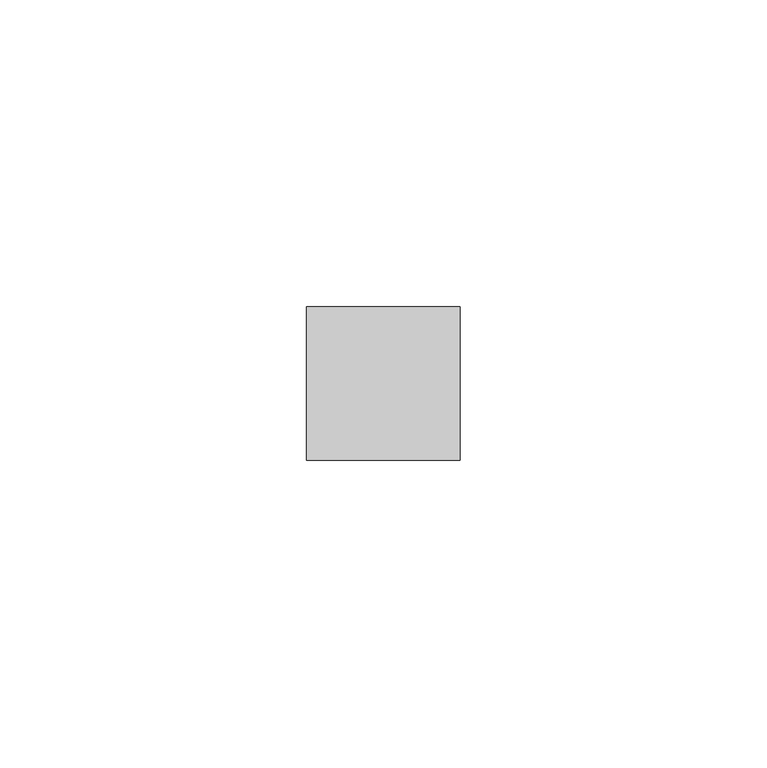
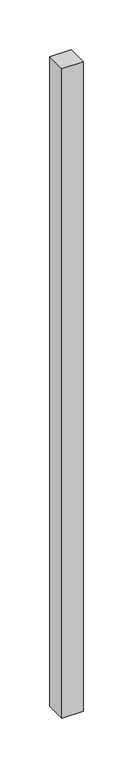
"""IFC4 building model written with IfcOpenShell, lengths in millimetres: member geometry, Obdélníková příčel : VERTI AERO."""

import ifcopenshell
import ifcopenshell.guid

model = None  # the IFC model being written
_history = None  # IfcOwnerHistory: only IFC2X3 demands one
_inside = {}  # id of a spatial element -> (the spatial element, [elements in it])
_under = {}  # id of a project, library or spatial element -> (it, [spatial elements below it])
_declared = {}  # id of a project -> (the project, [libraries it declares])
_typed = {}  # id of a type object -> (the type object, [elements of that type])
_made_of = {}  # id of a material, layer set ... -> (it, [elements and type objects made of it])


def new_model(schema):
    """Start an empty IFC model of exactly this schema.

    Asked for "IFC4X3", IfcOpenShell would pick the latest addendum, in which some entities
    have other attributes; the version numbers below select the first issue.
    IFC2X3 requires an IfcOwnerHistory on every rooted entity: one is made here for all.
    """
    global model, _history
    if schema == "IFC4X3":
        model = ifcopenshell.file(schema_version=(4, 3, 0, 0))
    else:
        model = ifcopenshell.file(schema=schema)
    _inside.clear()
    _under.clear()
    _declared.clear()
    _typed.clear()
    _made_of.clear()
    _history = None
    if model.schema == "IFC2X3":
        org = make("IfcOrganization", Name="unknown")
        user = make(
            "IfcPersonAndOrganization",
            ThePerson=make("IfcPerson", FamilyName="unknown"),
            TheOrganization=org,
        )
        app = make(
            "IfcApplication",
            ApplicationDeveloper=org,
            Version="unknown",
            ApplicationFullName="unknown",
            ApplicationIdentifier="unknown",
        )
        _history = make(
            "IfcOwnerHistory",
            OwningUser=user,
            OwningApplication=app,
            ChangeAction="ADDED",
            CreationDate=0,
        )
    return model


def make(cls, **values):
    """One entity of the class cls with the attributes given. An attribute that is None is left unset."""
    return model.create_entity(
        cls, **{name: value for name, value in values.items() if value is not None}
    )


def rooted(cls, **values):
    """An entity with a GlobalId (a new one), such as an element, a storey or a relation."""
    return make(cls, GlobalId=ifcopenshell.guid.new(), OwnerHistory=_history, **values)


def si_unit(unit_type, name, prefix=None):
    """IfcSIUnit, for example si_unit("LENGTHUNIT", "METRE", prefix="MILLI")."""
    return make("IfcSIUnit", UnitType=unit_type, Prefix=prefix, Name=name)


def assignment(units):
    """IfcUnitAssignment: the units of a project."""
    return None if units is None else make("IfcUnitAssignment", Units=units)


def point(xyz):
    """IfcCartesianPoint."""
    return None if xyz is None else make("IfcCartesianPoint", Coordinates=xyz)


def direction(xyz):
    """IfcDirection."""
    return None if xyz is None else make("IfcDirection", DirectionRatios=xyz)


def frame(location, z_axis=None, x_axis=None):
    """IfcAxis2Placement3D, a coordinate frame: its origin and axes. An axis left out is left unset."""
    return make(
        "IfcAxis2Placement3D",
        Location=point(location),
        Axis=direction(z_axis),
        RefDirection=direction(x_axis),
    )


def origin():
    """The frame at (0, 0, 0) with its axes left unset."""
    return frame((0.0, 0.0, 0.0))


def place(relative_to, where):
    """IfcLocalPlacement: puts the frame where relative to a parent placement (None: the world)."""
    return make(
        "IfcLocalPlacement", PlacementRelTo=relative_to, RelativePlacement=where
    )


def context(
    kind, dimensions, precision=None, world=None, true_north=None, identifier=None
):
    """IfcGeometricRepresentationContext, for example the 3D "Model" context."""
    return make(
        "IfcGeometricRepresentationContext",
        ContextIdentifier=identifier,
        ContextType=kind,
        CoordinateSpaceDimension=dimensions,
        Precision=precision,
        WorldCoordinateSystem=world,
        TrueNorth=true_north,
    )


def project(units=None, contexts=None):
    """IfcProject with its units and contexts."""
    return rooted(
        "IfcProject",
        Name="project",
        RepresentationContexts=contexts,
        UnitsInContext=assignment(units),
    )


def spatial(cls, under=None, at=None, **own):
    """A site, building, storey or space (cls), placed at a placement, below another one or the project."""
    s = rooted(cls, ObjectPlacement=at, **own)
    if under is not None:
        _under.setdefault(under.id(), (under, []))[1].append(s)
    return s


def polyline(points):
    """IfcPolyline through the points."""
    return make("IfcPolyline", Points=[point(p) for p in points])


def outline(outer, holes=None, kind="AREA"):
    """IfcArbitraryClosedProfileDef: a profile drawn as a closed curve; with holes, ...WithVoids."""
    if holes is None:
        return make("IfcArbitraryClosedProfileDef", ProfileType=kind, OuterCurve=outer)
    return make(
        "IfcArbitraryProfileDefWithVoids",
        ProfileType=kind,
        OuterCurve=outer,
        InnerCurves=holes,
    )


def extrude(swept, where, along, depth):
    """IfcExtrudedAreaSolid: the profile swept, set in the frame where, extruded along a direction by depth."""
    return make(
        "IfcExtrudedAreaSolid",
        SweptArea=swept,
        Position=where,
        ExtrudedDirection=direction(along),
        Depth=depth,
    )


def shape(context_of_items, identifier, shape_type, items):
    """IfcShapeRepresentation: the items that make up one representation, for example the "Body"."""
    return make(
        "IfcShapeRepresentation",
        ContextOfItems=context_of_items,
        RepresentationIdentifier=identifier,
        RepresentationType=shape_type,
        Items=items,
    )


def source(mapping_origin, context_of_items, identifier, shape_type, items):
    """IfcRepresentationMap: a shape defined once, which mapped items show again and again."""
    return make(
        "IfcRepresentationMap",
        MappingOrigin=mapping_origin,
        MappedRepresentation=shape(context_of_items, identifier, shape_type, items),
    )


def transform(
    local_origin,
    x_axis=None,
    y_axis=None,
    z_axis=None,
    scale=None,
    scale2=None,
    scale3=None,
    uniform=True,
):
    """IfcCartesianTransformationOperator3D, or its non-uniform kind. x_axis, y_axis, z_axis: its Axis1, 2, 3."""
    if uniform:
        return make(
            "IfcCartesianTransformationOperator3D",
            Axis1=direction(x_axis),
            Axis2=direction(y_axis),
            LocalOrigin=point(local_origin),
            Scale=scale,
            Axis3=direction(z_axis),
        )
    return make(
        "IfcCartesianTransformationOperator3DnonUniform",
        Axis1=direction(x_axis),
        Axis2=direction(y_axis),
        LocalOrigin=point(local_origin),
        Scale=scale,
        Axis3=direction(z_axis),
        Scale2=scale2,
        Scale3=scale3,
    )


def mapped(mapping_source, mapping_target):
    """IfcMappedItem: shows the shape of a source again, moved by a transform."""
    return make(
        "IfcMappedItem", MappingSource=mapping_source, MappingTarget=mapping_target
    )


def made_of(thing, what):
    """Note that an element or type object is made of a material, layer set ...; save() writes the relation."""
    if what is not None:
        _made_of.setdefault(what.id(), (what, []))[1].append(thing)
    return thing


def element(
    cls,
    number,
    at=None,
    inside=None,
    cuts=None,
    type_object=None,
    material=None,
    context=None,
    identifier="Body",
    shape_type=None,
    held_by="IfcProductDefinitionShape",
    body=None,
    shapes=None,
    **own,
):
    """One element of the class cls, such as IfcWall. Its Tag is "e" and its number.

    at: its placement. inside: the storey or other place that contains it. cuts: it is an
    opening in that element (IfcRelVoidsElement). A single representation is given by context,
    identifier, shape_type and body (its items); several are given by shapes. held_by: the class
    of the entity that holds the representations. save() writes the other relations.
    """
    e = rooted(cls, Tag="e%d" % number, ObjectPlacement=at, **own)
    if body is not None:
        shapes = [shape(context, identifier, shape_type, body)]
    if shapes is not None:
        e.Representation = make(held_by, Representations=shapes)
    if inside is not None:
        _inside.setdefault(inside.id(), (inside, []))[1].append(e)
    if cuts is not None:
        rooted(
            "IfcRelVoidsElement", RelatingBuildingElement=cuts, RelatedOpeningElement=e
        )
    if type_object is not None:
        _typed.setdefault(type_object.id(), (type_object, []))[1].append(e)
    return made_of(e, material)


def aggregate(whole, parts):
    """IfcRelAggregates: a whole, such as a stair, and the parts it consists of."""
    return rooted("IfcRelAggregates", RelatingObject=whole, RelatedObjects=parts)


def save(model, path):
    """Write the relations noted so far, then the file.

    IfcRelAggregates (storeys below a building ...), IfcRelContainedInSpatialStructure (elements
    in a storey), IfcRelDefinesByType, IfcRelAssociatesMaterial and IfcRelDeclares: one each for
    every whole, place, type object, material and project.
    """
    for whole, parts in _under.values():
        aggregate(whole, parts)
    for where, things in _inside.values():
        rooted(
            "IfcRelContainedInSpatialStructure",
            RelatedElements=things,
            RelatingStructure=where,
        )
    for kind, things in _typed.values():
        rooted("IfcRelDefinesByType", RelatedObjects=things, RelatingType=kind)
    for what, things in _made_of.values():
        rooted("IfcRelAssociatesMaterial", RelatedObjects=things, RelatingMaterial=what)
    for by, libraries in _declared.values():
        rooted("IfcRelDeclares", RelatingContext=by, RelatedDefinitions=libraries)
    model.write(path)


def member_84486876(model_context):
    return source(origin(), model_context, "Body", "SweptSolid", [
        extrude(outline(polyline([(0.0, 12.5), (0.0, -12.5), (-25.0, -12.5), (-25.0, 12.5), (0.0, 12.5)])), frame((0.0, 0.0, -800.0), z_axis=(0.0, 0.0, 1.0), x_axis=(1.0, 0.0, 0.0)), (0.0, 0.0, 1.0), 800.0),
    ])


if __name__ == "__main__":
    model = new_model("IFC4")
    model_context = context("Model", 3, world=origin())
    ifc_project = project(units=[si_unit("LENGTHUNIT", "METRE", prefix="MILLI")], contexts=[model_context])
    site = spatial("IfcSite", under=ifc_project)
    building = spatial("IfcBuilding", under=site)
    placement = place(None, origin())
    member_shape = member_84486876(model_context)
    element("IfcMember", 1, ObjectType="Obdélníková příčel : VERTI AERO", at=placement, inside=building, context=model_context, shape_type="MappedRepresentation", body=[
        mapped(member_shape, transform((0.0, 0.0, 0.0), x_axis=(1.0, 0.0, 0.0), y_axis=(0.0, 1.0, 0.0), z_axis=(0.0, 0.0, 1.0))),
    ])
    save(model, "model.ifc")
